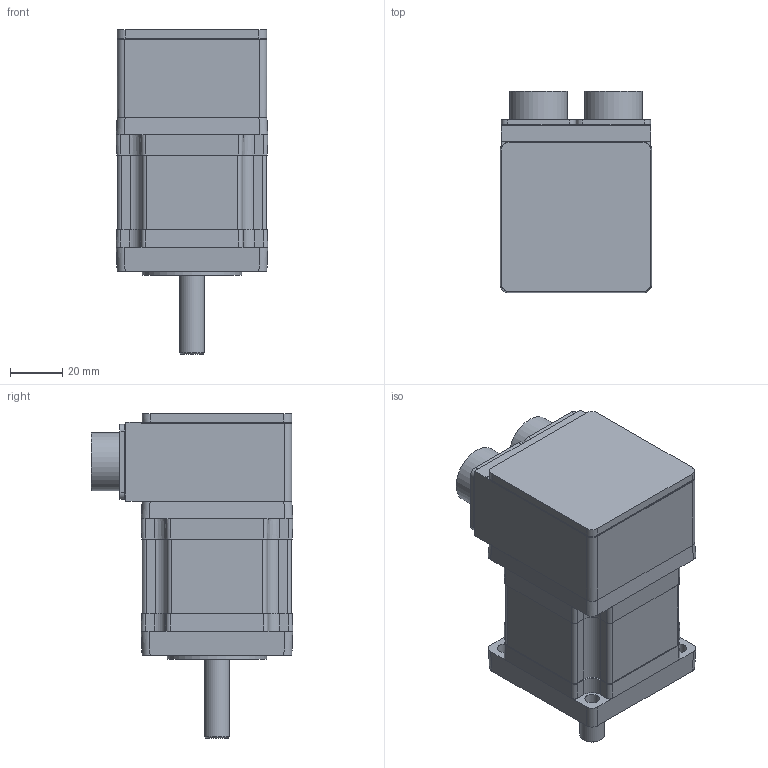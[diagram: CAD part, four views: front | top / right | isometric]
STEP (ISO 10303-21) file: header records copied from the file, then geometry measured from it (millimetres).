
FILE_DESCRIPTION((''),'2;1');
FILE_NAME('C:\CAD_work\Dummy_Modeling_Project_02-12-05\3D MODELS\BE231_MS_TQ.stp','2005-12-20T15:33:45',('jevans'),(''),'Autodesk Inventor 10','Autodesk Inventor 10','');
FILE_SCHEMA(('AUTOMOTIVE_DESIGN { 1 0 10303 214 1 1 1 1 }'));
Length unit declared in the file: inch
Products named in the file (1): BE23_MS_TQ
Bounding box: 57.95 x 77.05 x 124.11 mm (x, y, z)
Volume: 305030.9 mm3; surface area: 40673.7 mm2
Topology: 3 solids, 3 shells, 306 faces, 756 edges, 480 vertices
Faces by surface type: plane 135, cylinder 117, bspline 31, sphere 12, cone 8, torus 3
Full cylindrical faces by diameter (mm): 1.27 x2, 1.905 x26, 2.54 x4, 9.52 x1, 9.525 x1, 19.177 x1, 21.59 x1, 22.225 x1, 24.13 x1, 25.403 x1, 26 x1, 27.076 x1, 31.75 x3, 38.1 x1, 41.732 x1, 47.015 x1
Entity records: 8798 total; most frequent: CARTESIAN_POINT 1823, DIRECTION 1501, ORIENTED_EDGE 1300, EDGE_CURVE 650, AXIS2_PLACEMENT_3D 575, VERTEX_POINT 459, EDGE_LOOP 429, VECTOR 351
